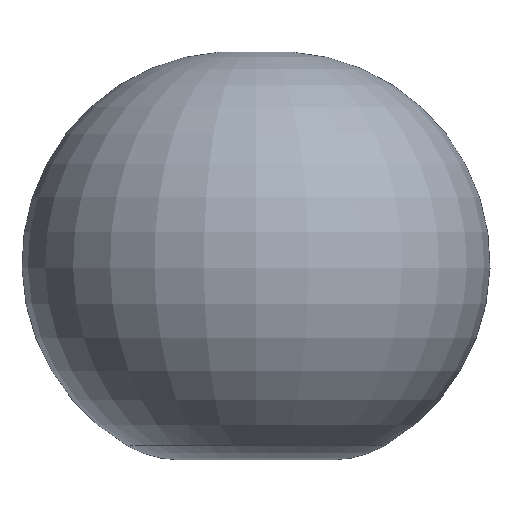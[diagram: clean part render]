
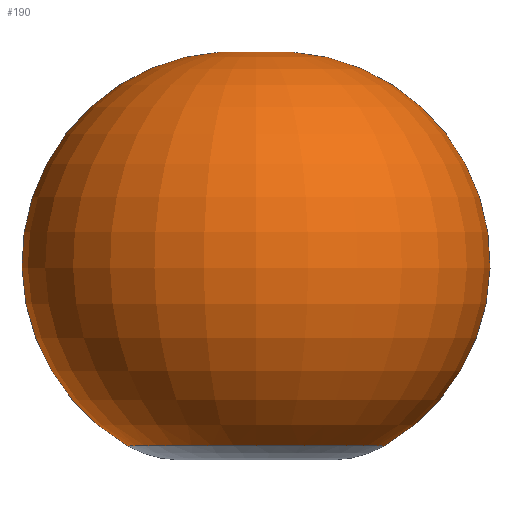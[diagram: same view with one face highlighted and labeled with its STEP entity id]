
A CAD part, front view. The second image highlights one B-rep face of the part: STEP entity #190.
In plain terms, the highlighted toroidal (fillet/blend) face has major radius 150 mm and minor radius 1386.87 mm.
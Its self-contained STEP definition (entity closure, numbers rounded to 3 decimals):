
#5 = AXIS2_PLACEMENT_3D ( 'NONE', #145, #163, #19 ) ;
#6 = AXIS2_PLACEMENT_3D ( 'NONE', #42, #251, #124 ) ;
#19 = DIRECTION ( 'NONE',  ( 1., 0., 0. ) ) ;
#24 = CARTESIAN_POINT ( 'NONE',  ( 150., 0., 486.5 ) ) ;
#26 = AXIS2_PLACEMENT_3D ( 'NONE', #85, #129, #150 ) ;
#30 = ORIENTED_EDGE ( 'NONE', *, *, #94, .T. ) ;
#31 = TOROIDAL_SURFACE ( 'NONE', #26, 150., 1386.865 ) ;
#38 = DIRECTION ( 'NONE',  ( 0., -1., 0. ) ) ;
#42 = CARTESIAN_POINT ( 'NONE',  ( -150., 0., 486.5 ) ) ;
#77 = CIRCLE ( 'NONE', #5, 843.433 ) ;
#85 = CARTESIAN_POINT ( 'NONE',  ( 0., 0., 486.5 ) ) ;
#88 = VERTEX_POINT ( 'NONE', #119 ) ;
#94 = EDGE_CURVE ( 'NONE', #98, #136, #77, .T. ) ;
#98 = VERTEX_POINT ( 'NONE', #263 ) ;
#105 = CIRCLE ( 'NONE', #254, 1386.865 ) ;
#119 = CARTESIAN_POINT ( 'NONE',  ( 0., 0., 1865.23 ) ) ;
#120 = CARTESIAN_POINT ( 'NONE',  ( 843.433, 0., -714.561 ) ) ;
#124 = DIRECTION ( 'NONE',  ( -1., 0., 0. ) ) ;
#129 = DIRECTION ( 'NONE',  ( 0., 0., 1. ) ) ;
#135 = ORIENTED_EDGE ( 'NONE', *, *, #154, .T. ) ;
#136 = VERTEX_POINT ( 'NONE', #120 ) ;
#145 = CARTESIAN_POINT ( 'NONE',  ( 0., 0., -714.561 ) ) ;
#150 = DIRECTION ( 'NONE',  ( 1., 0., 0. ) ) ;
#154 = EDGE_CURVE ( 'NONE', #136, #88, #105, .T. ) ;
#163 = DIRECTION ( 'NONE',  ( 0., 0., 1. ) ) ;
#190 = ADVANCED_FACE ( 'NONE', ( #232 ), #31, .T. ) ;
#201 = CIRCLE ( 'NONE', #6, 1386.865 ) ;
#205 = DIRECTION ( 'NONE',  ( 0., 0., -1. ) ) ;
#219 = ORIENTED_EDGE ( 'NONE', *, *, #258, .F. ) ;
#232 = FACE_OUTER_BOUND ( 'NONE', #257, .T. ) ;
#251 = DIRECTION ( 'NONE',  ( 0., 1., 0. ) ) ;
#254 = AXIS2_PLACEMENT_3D ( 'NONE', #24, #38, #205 ) ;
#257 = EDGE_LOOP ( 'NONE', ( #219, #30, #135 ) ) ;
#258 = EDGE_CURVE ( 'NONE', #98, #88, #201, .T. ) ;
#263 = CARTESIAN_POINT ( 'NONE',  ( -843.433, 0., -714.561 ) ) ;
